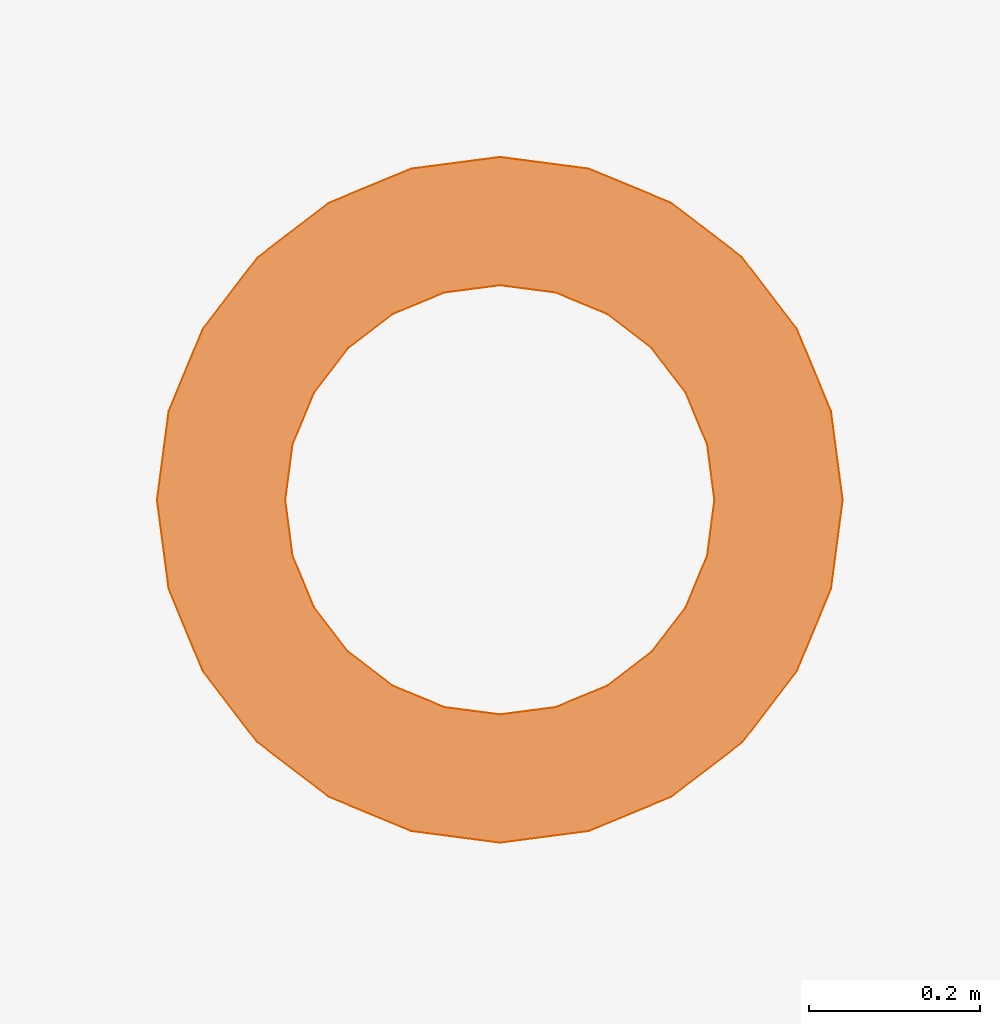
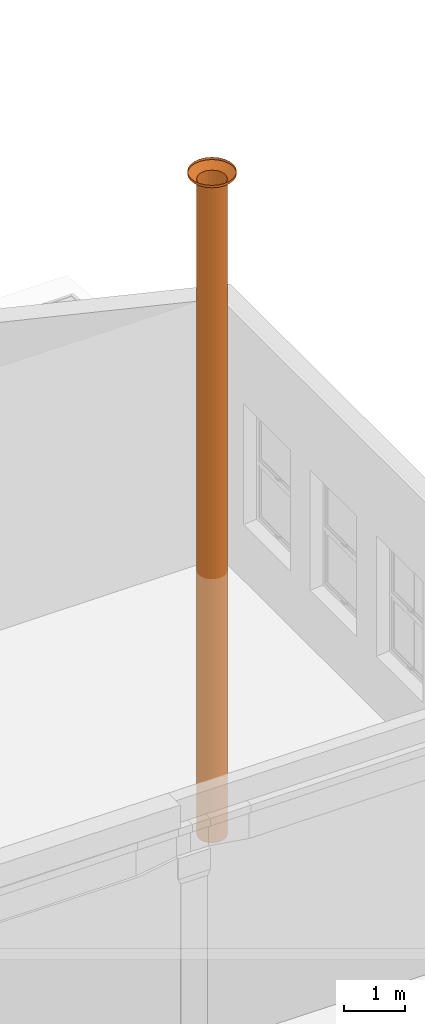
# One storey, part 300 of 301: 3 proxies.
"""IFC2X3 building model written with IfcOpenShell, lengths in millimetres."""

from ifc_helpers import new_model, entity, si_unit, converted_unit, derived_unit, money_unit, direction, frame, origin_with_axes, place, context, subcontext, project, spatial, open_shell, surface_model, type_object, element, save


model = new_model("IFC2X3")

# Units and contexts
model_context = context("Model", 3, precision=0.01, world=origin_with_axes(), true_north=direction((0.0, 1.0)))
body_context = subcontext(model_context, "Body", "Model", "MODEL_VIEW")
ifc_project = project(units=[si_unit("LENGTHUNIT", "METRE", prefix="MILLI"), si_unit("AREAUNIT", "SQUARE_METRE"), si_unit("VOLUMEUNIT", "CUBIC_METRE"), converted_unit("PLANEANGLEUNIT", "DEGREE", entity("IfcPlaneAngleMeasure", 0.0174532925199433), si_unit("PLANEANGLEUNIT", "RADIAN"), dimensions=[0, 0, 0, 0, 0, 0, 0]), money_unit("EUR"), converted_unit("TIMEUNIT", "Year", entity("IfcTimeMeasure", 31557600.0), si_unit("TIMEUNIT", "SECOND"), dimensions=[0, 0, 1, 0, 0, 0, 0]), si_unit("MASSUNIT", "GRAM", prefix="KILO"), si_unit("THERMODYNAMICTEMPERATUREUNIT", "DEGREE_CELSIUS"), si_unit("LUMINOUSINTENSITYUNIT", "LUMEN"), si_unit("ENERGYUNIT", "JOULE", prefix="MEGA"), derived_unit("THERMALCONDUCTANCEUNIT", [(si_unit("POWERUNIT", "WATT"), 1), (si_unit("LENGTHUNIT", "METRE"), -1), (si_unit("THERMODYNAMICTEMPERATUREUNIT", "KELVIN"), -1)]), derived_unit("SPECIFICHEATCAPACITYUNIT", [(si_unit("ENERGYUNIT", "JOULE"), 1), (si_unit("MASSUNIT", "GRAM", prefix="KILO"), -1), (si_unit("THERMODYNAMICTEMPERATUREUNIT", "KELVIN"), -1)]), derived_unit("MASSDENSITYUNIT", [(si_unit("MASSUNIT", "GRAM", prefix="KILO"), 1), (si_unit("VOLUMEUNIT", "CUBIC_METRE"), -1)])], contexts=[model_context])

# Site, building, storey
site_placement = place(None, frame((0.0, 0.0, 8650.0), z_axis=(0.0, 0.0, 1.0), x_axis=(1.0, 0.0, 0.0)))
site = spatial("IfcSite", under=ifc_project, at=site_placement, Name="43301:001:0844", CompositionType="ELEMENT")
building_placement = place(site_placement, origin_with_axes())
building = spatial("IfcBuilding", under=site, at=building_placement, Name="Kuressaare Ametikooli tuulikute mehaanikute õppekorpus", CompositionType="ELEMENT")
storey_placement = place(building_placement, origin_with_axes())
storey = spatial("IfcBuildingStorey", under=building, at=storey_placement, Name="1.korrus", CompositionType="ELEMENT", Elevation=0.0)

# Proxies
building_element_proxy_type = type_object("IfcBuildingElementProxyType", Name="IfcBuildingElementProxy", PredefinedType="NOTDEFINED")
proxy_1_placement = place(storey_placement, frame((99185.7757442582, 115594.192213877, 12792.32145399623), z_axis=(1.0, 0.0, 0.0), x_axis=(0.0, 1.0, 0.0)))
element("IfcBuildingElementProxy", 1, at=proxy_1_placement, inside=storey, type_object=building_element_proxy_type, Name="DUCT - 001", context=body_context, shape_type="SurfaceModel", body=[
    surface_model("IfcShellBasedSurfaceModel", [(0.0, 0.0, 400.9999999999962), (103.7864370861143, 0.0, 387.3362563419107), (103.7864370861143, 48.40742521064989, 387.3362563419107), (0.0, 48.40742521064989, 400.9999999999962), (200.5000000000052, 0.0, 347.2761869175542), (200.5000000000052, 48.40742521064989, 347.2761869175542), (-103.7864370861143, 0.0, 387.3362563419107), (-103.7864370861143, 48.40742521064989, 387.3362563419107), (283.5498192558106, 0.0, 283.5498192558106), (283.5498192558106, 48.40742521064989, 283.5498192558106), (-200.5000000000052, 0.0, 347.2761869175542), (-200.5000000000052, 48.40742521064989, 347.2761869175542), (347.2761869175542, 0.0, 200.5000000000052), (347.2761869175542, 48.40742521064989, 200.5000000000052), (-283.5498192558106, 0.0, 283.5498192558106), (-283.5498192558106, 48.40742521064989, 283.5498192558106), (387.3362563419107, 0.0, 103.7864370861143), (387.3362563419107, 48.40742521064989, 103.7864370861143), (-347.2761869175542, 0.0, 200.5000000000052), (-347.2761869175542, 48.40742521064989, 200.5000000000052), (400.9999999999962, 0.0, 0.0), (400.9999999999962, 48.40742521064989, 0.0), (-387.3362563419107, 0.0, 103.7864370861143), (-387.3362563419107, 48.40742521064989, 103.7864370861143), (387.3362563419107, 0.0, -103.7864370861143), (387.3362563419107, 48.40742521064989, -103.7864370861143), (-400.9999999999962, 0.0, 0.0), (-400.9999999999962, 48.40742521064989, 0.0), (347.2761869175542, 0.0, -200.5000000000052), (347.2761869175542, 48.40742521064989, -200.5000000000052), (-387.3362563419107, 0.0, -103.7864370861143), (-387.3362563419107, 48.40742521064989, -103.7864370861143), (283.5498192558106, 0.0, -283.5498192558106), (283.5498192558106, 48.40742521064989, -283.5498192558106), (-347.2761869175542, 0.0, -200.5000000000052), (-347.2761869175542, 48.40742521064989, -200.5000000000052), (200.5000000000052, 0.0, -347.2761869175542), (200.5000000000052, 48.40742521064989, -347.2761869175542), (-283.5498192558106, 0.0, -283.5498192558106), (-283.5498192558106, 48.40742521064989, -283.5498192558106), (103.7864370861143, 0.0, -387.3362563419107), (103.7864370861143, 48.40742521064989, -387.3362563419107), (-200.5000000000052, 0.0, -347.2761869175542), (-200.5000000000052, 48.40742521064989, -347.2761869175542), (0.0, 0.0, -400.9999999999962), (0.0, 48.40742521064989, -400.9999999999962), (-103.7864370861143, 0.0, -387.3362563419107), (-103.7864370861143, 48.40742521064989, -387.3362563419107)], [open_shell([[[0, 1, 2, 3]], [[1, 4, 5, 2]], [[6, 0, 3, 7]], [[4, 8, 9, 5]], [[10, 6, 7, 11]], [[8, 12, 13, 9]], [[14, 10, 11, 15]], [[12, 16, 17, 13]], [[18, 14, 15, 19]], [[16, 20, 21, 17]], [[22, 18, 19, 23]], [[20, 24, 25, 21]], [[26, 22, 23, 27]], [[24, 28, 29, 25]], [[30, 26, 27, 31]], [[28, 32, 33, 29]], [[34, 30, 31, 35]], [[32, 36, 37, 33]], [[38, 34, 35, 39]], [[36, 40, 41, 37]], [[42, 38, 39, 43]], [[40, 44, 45, 41]], [[46, 42, 43, 47]], [[44, 46, 47, 45]]])]),
])
proxy_2_placement = place(storey_placement, frame((99185.7757442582, 115594.192213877, -330.0), z_axis=(1.0, 0.0, 0.0), x_axis=(0.0, 1.0, 0.0)))
element("IfcBuildingElementProxy", 2, at=proxy_2_placement, inside=storey, type_object=building_element_proxy_type, Name="DUCT - 001", context=body_context, shape_type="SurfaceModel", body=[
    surface_model("IfcShellBasedSurfaceModel", [(0.0, 0.0, 251.0000000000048), (64.96358032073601, 0.0, 242.4473823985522), (64.9635803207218, 13017.29032326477, 242.4473823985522), (0.0, 13017.29032326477, 251.0000000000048), (125.5000000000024, 0.0, 217.3723763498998), (125.4999999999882, 13017.29032326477, 217.3723763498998), (-64.96358032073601, 0.0, 242.4473823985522), (-64.96358032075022, 13017.29032326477, 242.4473823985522), (177.4838020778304, 0.0, 177.4838020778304), (177.4838020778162, 13017.29032326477, 177.4838020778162), (-125.5000000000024, 0.0, 217.3723763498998), (-125.5000000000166, 13017.29032326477, 217.3723763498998), (217.3723763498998, 0.0, 125.5000000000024), (217.3723763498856, 13017.29032326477, 125.5000000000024), (-177.4838020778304, 0.0, 177.4838020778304), (-177.4838020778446, 13017.29032326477, 177.4838020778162), (242.4473823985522, 0.0, 64.96358032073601), (242.447382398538, 13017.29032326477, 64.96358032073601), (-217.3723763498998, 0.0, 125.5000000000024), (-217.372376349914, 13017.29032326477, 125.5000000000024), (251.0000000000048, 0.0, 0.0), (250.9999999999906, 13017.29032326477, 0.0), (-242.4473823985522, 0.0, 64.96358032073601), (-242.4473823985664, 13017.29032326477, 64.96358032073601), (242.4473823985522, 0.0, -64.96358032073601), (242.447382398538, 13017.29032326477, -64.96358032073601), (-251.0000000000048, 0.0, 0.0), (-251.000000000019, 13017.29032326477, 0.0), (217.3723763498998, 0.0, -125.5000000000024), (217.3723763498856, 13017.29032326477, -125.5000000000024), (-242.4473823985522, 0.0, -64.96358032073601), (-242.4473823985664, 13017.29032326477, -64.96358032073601), (177.4838020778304, 0.0, -177.4838020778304), (177.4838020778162, 13017.29032326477, -177.4838020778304), (-217.3723763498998, 0.0, -125.5000000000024), (-217.372376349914, 13017.29032326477, -125.5000000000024), (125.5000000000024, 0.0, -217.3723763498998), (125.4999999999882, 13017.29032326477, -217.3723763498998), (-177.4838020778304, 0.0, -177.4838020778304), (-177.4838020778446, 13017.29032326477, -177.4838020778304), (64.96358032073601, 0.0, -242.4473823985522), (64.9635803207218, 13017.29032326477, -242.4473823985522), (-125.5000000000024, 0.0, -217.3723763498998), (-125.5000000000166, 13017.29032326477, -217.3723763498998), (0.0, 0.0, -251.0000000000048), (0.0, 13017.29032326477, -251.0000000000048), (-64.96358032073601, 0.0, -242.4473823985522), (-64.96358032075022, 13017.29032326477, -242.4473823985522)], [open_shell([[[0, 1, 2, 3]], [[1, 4, 5, 2]], [[6, 0, 3, 7]], [[4, 8, 9, 5]], [[10, 6, 7, 11]], [[8, 12, 13, 9]], [[14, 10, 11, 15]], [[12, 16, 17, 13]], [[18, 14, 15, 19]], [[16, 20, 21, 17]], [[22, 18, 19, 23]], [[20, 24, 25, 21]], [[26, 22, 23, 27]], [[24, 28, 29, 25]], [[30, 26, 27, 31]], [[28, 32, 33, 29]], [[34, 30, 31, 35]], [[32, 36, 37, 33]], [[38, 34, 35, 39]], [[36, 40, 41, 37]], [[42, 38, 39, 43]], [[40, 44, 45, 41]], [[46, 42, 43, 47]], [[44, 46, 47, 45]]])]),
])
proxy_3_placement = place(storey_placement, frame((99185.7757442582, 115594.192213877, 12687.29032326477), z_axis=(1.0, 0.0, 0.0), x_axis=(0.0, 1.0, 0.0)))
element("IfcBuildingElementProxy", 3, at=proxy_3_placement, inside=storey, type_object=building_element_proxy_type, Name="DUCT TRANSITION - 001", context=body_context, shape_type="SurfaceModel", body=[
    surface_model("IfcShellBasedSurfaceModel", [(0.0, 0.0, 251.0000000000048), (64.96358032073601, 0.0, 242.4473823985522), (103.7864370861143, 105.0311307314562, 387.3362563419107), (0.0, 105.0311307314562, 400.9999999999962), (125.5000000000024, 0.0, 217.3723763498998), (200.5000000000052, 105.0311307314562, 347.2761869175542), (-64.96358032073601, 0.0, 242.4473823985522), (-103.7864370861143, 105.0311307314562, 387.3362563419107), (177.4838020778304, 0.0, 177.4838020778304), (283.5498192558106, 105.0311307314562, 283.5498192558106), (-125.5000000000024, 0.0, 217.3723763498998), (-200.5000000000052, 105.0311307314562, 347.2761869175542), (217.3723763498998, 0.0, 125.5000000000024), (347.2761869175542, 105.0311307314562, 200.5000000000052), (-177.4838020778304, 0.0, 177.4838020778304), (-283.5498192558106, 105.0311307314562, 283.5498192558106), (242.4473823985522, 0.0, 64.96358032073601), (387.3362563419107, 105.0311307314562, 103.7864370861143), (-217.3723763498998, 0.0, 125.5000000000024), (-347.2761869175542, 105.0311307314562, 200.5000000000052), (251.0000000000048, 0.0, 0.0), (400.9999999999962, 105.0311307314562, 0.0), (-242.4473823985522, 0.0, 64.96358032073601), (-387.3362563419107, 105.0311307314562, 103.7864370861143), (242.4473823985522, 0.0, -64.96358032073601), (387.3362563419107, 105.0311307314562, -103.7864370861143), (-251.0000000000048, 0.0, 0.0), (-400.9999999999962, 105.0311307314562, 0.0), (217.3723763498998, 0.0, -125.5000000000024), (347.2761869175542, 105.0311307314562, -200.5000000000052), (-242.4473823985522, 0.0, -64.96358032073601), (-387.3362563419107, 105.0311307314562, -103.7864370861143), (177.4838020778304, 0.0, -177.4838020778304), (283.5498192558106, 105.0311307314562, -283.5498192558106), (-217.3723763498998, 0.0, -125.5000000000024), (-347.2761869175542, 105.0311307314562, -200.5000000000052), (125.5000000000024, 0.0, -217.3723763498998), (200.5000000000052, 105.0311307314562, -347.2761869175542), (-177.4838020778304, 0.0, -177.4838020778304), (-283.5498192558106, 105.0311307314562, -283.5498192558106), (64.96358032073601, 0.0, -242.4473823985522), (103.7864370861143, 105.0311307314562, -387.3362563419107), (-125.5000000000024, 0.0, -217.3723763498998), (-200.5000000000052, 105.0311307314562, -347.2761869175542), (0.0, 0.0, -251.0000000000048), (0.0, 105.0311307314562, -400.9999999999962), (-64.96358032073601, 0.0, -242.4473823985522), (-103.7864370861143, 105.0311307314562, -387.3362563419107)], [open_shell([[[0, 1, 2, 3]], [[1, 4, 5, 2]], [[6, 0, 3, 7]], [[4, 8, 9, 5]], [[10, 6, 7, 11]], [[8, 12, 13, 9]], [[14, 10, 11, 15]], [[12, 16, 17, 13]], [[18, 14, 15, 19]], [[16, 20, 21, 17]], [[22, 18, 19, 23]], [[20, 24, 25, 21]], [[26, 22, 23, 27]], [[24, 28, 29, 25]], [[30, 26, 27, 31]], [[28, 32, 33, 29]], [[34, 30, 31, 35]], [[32, 36, 37, 33]], [[38, 34, 35, 39]], [[36, 40, 41, 37]], [[42, 38, 39, 43]], [[40, 44, 45, 41]], [[46, 42, 43, 47]], [[44, 46, 47, 45]]])]),
])

save(model, "model.ifc")
